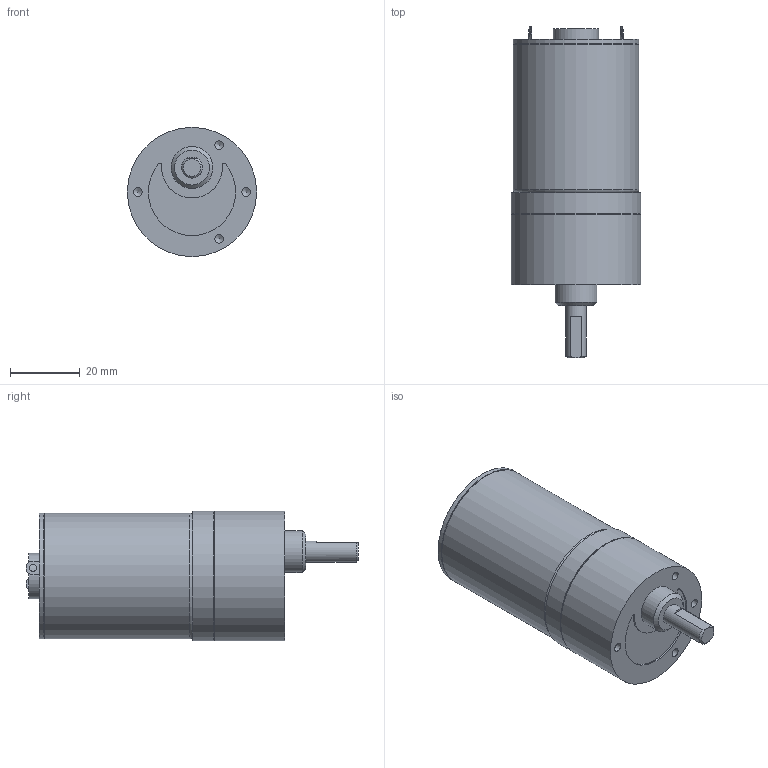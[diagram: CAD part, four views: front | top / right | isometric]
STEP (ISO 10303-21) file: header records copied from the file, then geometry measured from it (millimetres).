
FILE_DESCRIPTION((''),'2;1');
FILE_NAME('C:\Documents and Settings\SSEGAWA\デスクトップ\TP-3644D-HM-3.STP','2013-07-25T10:36:11',('SSEGAWA'),(''),'Autodesk Inventor 2010','Autodesk Inventor 2010','');
FILE_SCHEMA(('CONFIG_CONTROL_DESIGN'));
Length unit declared in the file: millimetre
Products named in the file (1): tp_3644dh_hm-3_Shrinkwrap_1
Bounding box: 37 x 95.1 x 37 mm (x, y, z)
Volume: 74230.9 mm3; surface area: 11355.1 mm2
Topology: 1 solids, 4 shells, 62 faces, 135 edges, 91 vertices
Faces by surface type: plane 26, cylinder 17, bspline 16, cone 2, torus 1
Full cylindrical faces by diameter (mm): 3 x1, 3.5 x1, 6 x1, 12 x1, 13 x1, 35.6 x1, 36 x2, 36.6 x1, 37 x2
Entity records: 1688 total; most frequent: CARTESIAN_POINT 494, DIRECTION 233, ORIENTED_EDGE 170, EDGE_LOOP 105, AXIS2_PLACEMENT_3D 103, EDGE_CURVE 85, VERTEX_POINT 70, STYLED_ITEM 63
